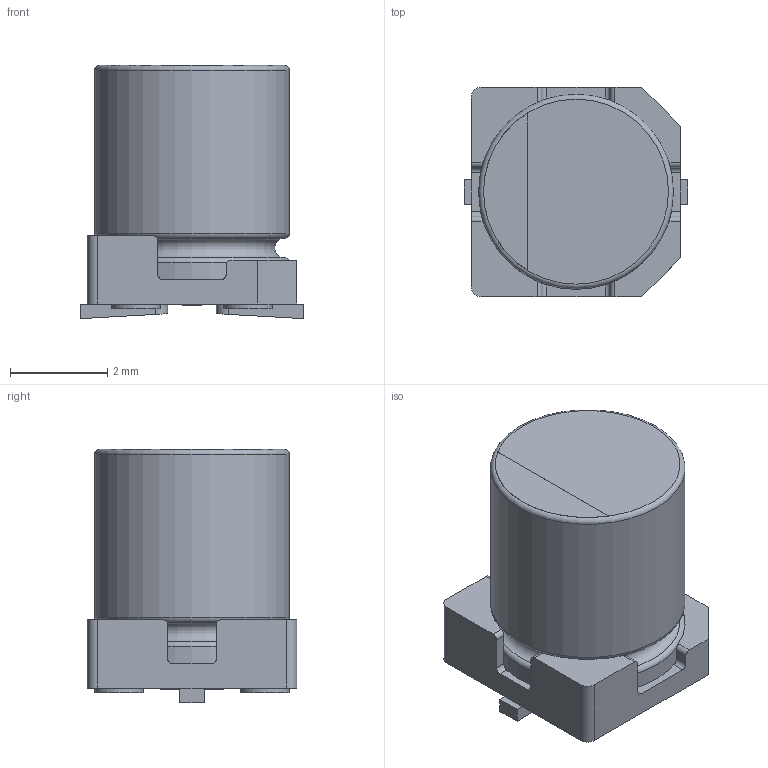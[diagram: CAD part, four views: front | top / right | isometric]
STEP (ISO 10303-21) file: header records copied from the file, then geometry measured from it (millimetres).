
FILE_DESCRIPTION(/* description */ (''),/* implementation_level */ '2;1');
FILE_NAME(/* name */ '4x5.2_Chip.stp',/* time_stamp */ '2017-09-04T16:02:12+09:00',/* author */ (''),/* organization */ (''),/* preprocessor_version */ 'ST-DEVELOPER v16',/* originating_system */ 'SIEMENS PLM Software NX 11.0',/* authorisation */ '');
FILE_SCHEMA (('AUTOMOTIVE_DESIGN { 1 0 10303 214 3 1 1 1 }'));
Length unit declared in the file: millimetre
Products named in the file (1): 4x5.2_Chip_0
Bounding box: 4.6 x 4.3 x 5.2 mm (x, y, z)
Volume: 66.7 mm3; surface area: 151.7 mm2
Topology: 5 solids, 5 shells, 81 faces, 194 edges, 128 vertices
Faces by surface type: plane 44, cylinder 33, torus 4
Full cylindrical faces by diameter (mm): 1 x4, 4 x2
Entity records: 2538 total; most frequent: CARTESIAN_POINT 528, DIRECTION 384, ORIENTED_EDGE 366, EDGE_CURVE 183, AXIS2_PLACEMENT_3D 135, VERTEX_POINT 127, LINE 114, VECTOR 114
